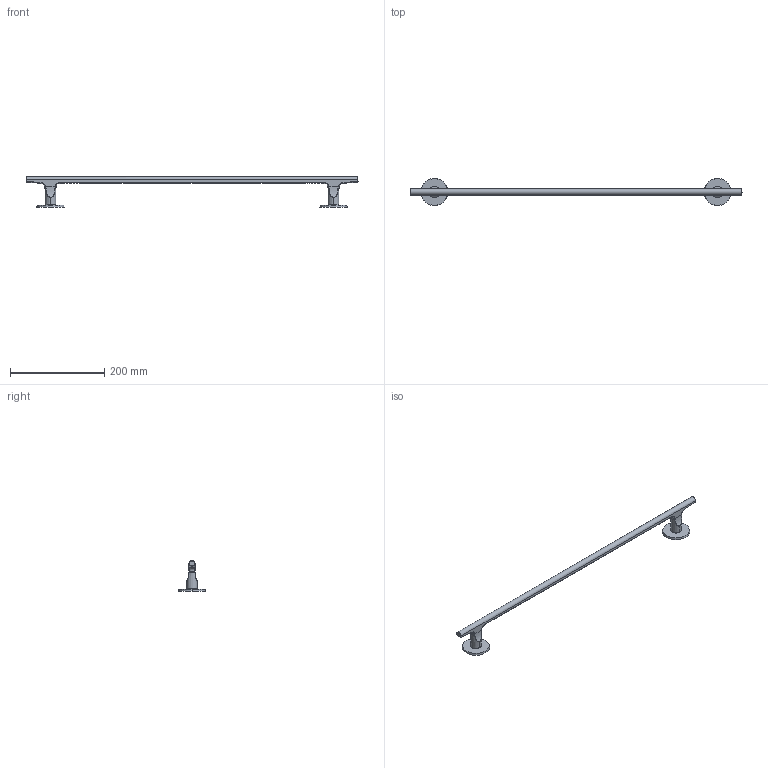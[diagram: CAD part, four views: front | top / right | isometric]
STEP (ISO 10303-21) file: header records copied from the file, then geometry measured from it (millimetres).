
FILE_DESCRIPTION((''),'2;1');
FILE_NAME('DIS_3D_L407','2026-02-02T11:53:48',('Luca'),(''),'CREO PARAMETRIC BY PTC INC, 2025010','CREO PARAMETRIC BY PTC INC, 2025010','');
FILE_SCHEMA(('AUTOMOTIVE_DESIGN { 1 0 10303 214 1 1 1 1 }'));
Length unit declared in the file: millimetre
Products named in the file (1): DIS_3D_L407
Bounding box: 703.6 x 58 x 64.5 mm (x, y, z)
Volume: 164576.8 mm3; surface area: 49213.2 mm2
Topology: 1 solids, 1 shells, 94 faces, 218 edges, 128 vertices
Faces by surface type: bspline 44, cylinder 19, plane 8, cone 8, torus 8, extrusion 7
Entity records: 11029 total; most frequent: CARTESIAN_POINT 8401, ORIENTED_EDGE 436, DIRECTION 260, EDGE_CURVE 218, VERTEX_POINT 128, B_SPLINE_CURVE_WITH_KNOTS 125, PRESENTATION_STYLE_ASSIGNMENT 102, STYLED_ITEM 102
